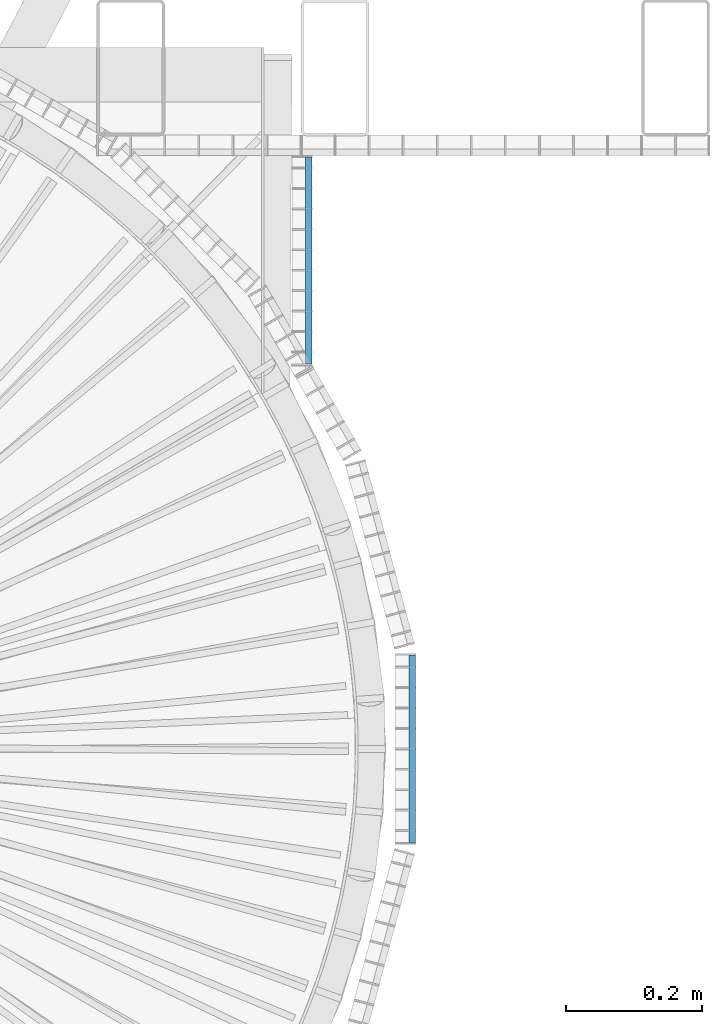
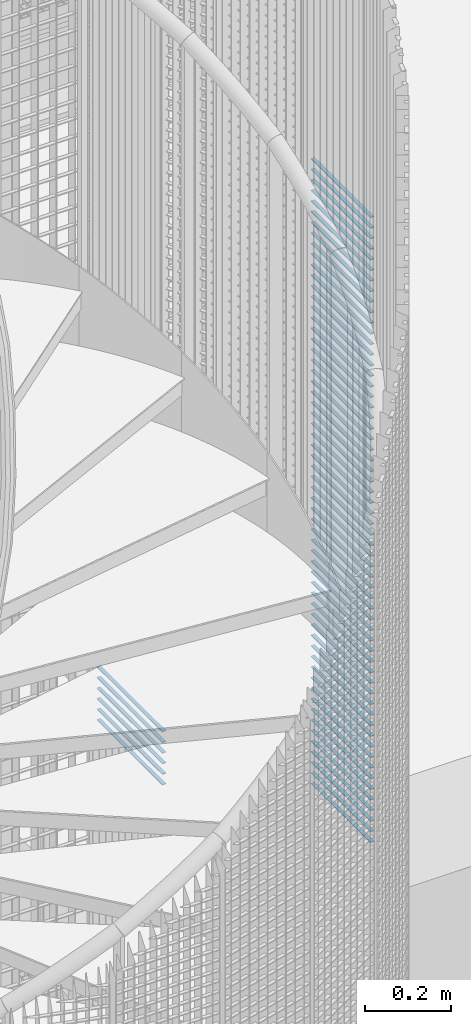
# One storey, part 284 of 1183: 66 beams, 2 elements without a shape of their own.
"""IFC2X3 building model written with IfcOpenShell, lengths in millimetres."""

import ifcopenshell
import ifcopenshell.guid

model = None  # the IFC model being written
_history = None  # IfcOwnerHistory: only IFC2X3 demands one
_inside = {}  # id of a spatial element -> (the spatial element, [elements in it])
_under = {}  # id of a project, library or spatial element -> (it, [spatial elements below it])
_declared = {}  # id of a project -> (the project, [libraries it declares])
_typed = {}  # id of a type object -> (the type object, [elements of that type])
_made_of = {}  # id of a material, layer set ... -> (it, [elements and type objects made of it])


def new_model(schema):
    """Start an empty IFC model of exactly this schema.

    Asked for "IFC4X3", IfcOpenShell would pick the latest addendum, in which some entities
    have other attributes; the version numbers below select the first issue.
    IFC2X3 requires an IfcOwnerHistory on every rooted entity: one is made here for all.
    """
    global model, _history
    if schema == "IFC4X3":
        model = ifcopenshell.file(schema_version=(4, 3, 0, 0))
    else:
        model = ifcopenshell.file(schema=schema)
    _inside.clear()
    _under.clear()
    _declared.clear()
    _typed.clear()
    _made_of.clear()
    _history = None
    if model.schema == "IFC2X3":
        org = make("IfcOrganization", Name="unknown")
        user = make(
            "IfcPersonAndOrganization",
            ThePerson=make("IfcPerson", FamilyName="unknown"),
            TheOrganization=org,
        )
        app = make(
            "IfcApplication",
            ApplicationDeveloper=org,
            Version="unknown",
            ApplicationFullName="unknown",
            ApplicationIdentifier="unknown",
        )
        _history = make(
            "IfcOwnerHistory",
            OwningUser=user,
            OwningApplication=app,
            ChangeAction="ADDED",
            CreationDate=0,
        )
    return model


def make(cls, **values):
    """One entity of the class cls with the attributes given. An attribute that is None is left unset."""
    return model.create_entity(
        cls, **{name: value for name, value in values.items() if value is not None}
    )


def rooted(cls, **values):
    """An entity with a GlobalId (a new one), such as an element, a storey or a relation."""
    return make(cls, GlobalId=ifcopenshell.guid.new(), OwnerHistory=_history, **values)


def si_unit(unit_type, name, prefix=None):
    """IfcSIUnit, for example si_unit("LENGTHUNIT", "METRE", prefix="MILLI")."""
    return make("IfcSIUnit", UnitType=unit_type, Prefix=prefix, Name=name)


def assignment(units):
    """IfcUnitAssignment: the units of a project."""
    return None if units is None else make("IfcUnitAssignment", Units=units)


def point(xyz):
    """IfcCartesianPoint."""
    return None if xyz is None else make("IfcCartesianPoint", Coordinates=xyz)


def direction(xyz):
    """IfcDirection."""
    return None if xyz is None else make("IfcDirection", DirectionRatios=xyz)


def frame(location, z_axis=None, x_axis=None):
    """IfcAxis2Placement3D, a coordinate frame: its origin and axes. An axis left out is left unset."""
    return make(
        "IfcAxis2Placement3D",
        Location=point(location),
        Axis=direction(z_axis),
        RefDirection=direction(x_axis),
    )


def frame_2d(location, x_axis=None):
    """IfcAxis2Placement2D, a coordinate frame in the plane: its origin and x axis."""
    return make(
        "IfcAxis2Placement2D", Location=point(location), RefDirection=direction(x_axis)
    )


def origin_with_axes():
    """The frame at (0, 0, 0) with the z axis (0, 0, 1) and the x axis (1, 0, 0) written out."""
    return frame((0.0, 0.0, 0.0), z_axis=(0.0, 0.0, 1.0), x_axis=(1.0, 0.0, 0.0))


def origin_2d_with_axis():
    """The frame at (0, 0) in the plane with the x axis (1, 0) written out."""
    return frame_2d((0.0, 0.0), x_axis=(1.0, 0.0))


def place(relative_to, where):
    """IfcLocalPlacement: puts the frame where relative to a parent placement (None: the world)."""
    return make(
        "IfcLocalPlacement", PlacementRelTo=relative_to, RelativePlacement=where
    )


def context(
    kind, dimensions, precision=None, world=None, true_north=None, identifier=None
):
    """IfcGeometricRepresentationContext, for example the 3D "Model" context."""
    return make(
        "IfcGeometricRepresentationContext",
        ContextIdentifier=identifier,
        ContextType=kind,
        CoordinateSpaceDimension=dimensions,
        Precision=precision,
        WorldCoordinateSystem=world,
        TrueNorth=true_north,
    )


def subcontext(parent, identifier, kind, view, scale=None):
    """IfcGeometricRepresentationSubContext, for example "Body" below "Model"."""
    return make(
        "IfcGeometricRepresentationSubContext",
        ContextIdentifier=identifier,
        ContextType=kind,
        ParentContext=parent,
        TargetScale=scale,
        TargetView=view,
    )


def project(units=None, contexts=None):
    """IfcProject with its units and contexts."""
    return rooted(
        "IfcProject",
        Name="project",
        RepresentationContexts=contexts,
        UnitsInContext=assignment(units),
    )


def spatial(cls, under=None, at=None, **own):
    """A site, building, storey or space (cls), placed at a placement, below another one or the project."""
    s = rooted(cls, ObjectPlacement=at, **own)
    if under is not None:
        _under.setdefault(under.id(), (under, []))[1].append(s)
    return s


def profile(cls, at=None, kind="AREA", **sizes):
    """A parametric profile (cls). Its sizes go by their IFC names, for example OverallWidth=200.0."""
    return make(cls, ProfileType=kind, Position=at, **sizes)


def rectangle(**sizes):
    """IfcRectangleProfileDef."""
    return profile("IfcRectangleProfileDef", **sizes)


def extrude(swept, where, along, depth):
    """IfcExtrudedAreaSolid: the profile swept, set in the frame where, extruded along a direction by depth."""
    return make(
        "IfcExtrudedAreaSolid",
        SweptArea=swept,
        Position=where,
        ExtrudedDirection=direction(along),
        Depth=depth,
    )


def shape(context_of_items, identifier, shape_type, items):
    """IfcShapeRepresentation: the items that make up one representation, for example the "Body"."""
    return make(
        "IfcShapeRepresentation",
        ContextOfItems=context_of_items,
        RepresentationIdentifier=identifier,
        RepresentationType=shape_type,
        Items=items,
    )


def material(Name=None, Category=None):
    """IfcMaterial."""
    return make("IfcMaterial", Name=Name, Category=Category)


def made_of(thing, what):
    """Note that an element or type object is made of a material, layer set ...; save() writes the relation."""
    if what is not None:
        _made_of.setdefault(what.id(), (what, []))[1].append(thing)
    return thing


def type_object(cls, material=None, **own):
    """A type object (cls), such as IfcWallType, which elements share."""
    return made_of(rooted(cls, **own), material)


def element(
    cls,
    number,
    at=None,
    inside=None,
    cuts=None,
    type_object=None,
    material=None,
    context=None,
    identifier="Body",
    shape_type=None,
    held_by="IfcProductDefinitionShape",
    body=None,
    shapes=None,
    **own,
):
    """One element of the class cls, such as IfcWall. Its Tag is "e" and its number.

    at: its placement. inside: the storey or other place that contains it. cuts: it is an
    opening in that element (IfcRelVoidsElement). A single representation is given by context,
    identifier, shape_type and body (its items); several are given by shapes. held_by: the class
    of the entity that holds the representations. save() writes the other relations.
    """
    e = rooted(cls, Tag="e%d" % number, ObjectPlacement=at, **own)
    if body is not None:
        shapes = [shape(context, identifier, shape_type, body)]
    if shapes is not None:
        e.Representation = make(held_by, Representations=shapes)
    if inside is not None:
        _inside.setdefault(inside.id(), (inside, []))[1].append(e)
    if cuts is not None:
        rooted(
            "IfcRelVoidsElement", RelatingBuildingElement=cuts, RelatedOpeningElement=e
        )
    if type_object is not None:
        _typed.setdefault(type_object.id(), (type_object, []))[1].append(e)
    return made_of(e, material)


def aggregate(whole, parts):
    """IfcRelAggregates: a whole, such as a stair, and the parts it consists of."""
    return rooted("IfcRelAggregates", RelatingObject=whole, RelatedObjects=parts)


def save(model, path):
    """Write the relations noted so far, then the file.

    IfcRelAggregates (storeys below a building ...), IfcRelContainedInSpatialStructure (elements
    in a storey), IfcRelDefinesByType, IfcRelAssociatesMaterial and IfcRelDeclares: one each for
    every whole, place, type object, material and project.
    """
    for whole, parts in _under.values():
        aggregate(whole, parts)
    for where, things in _inside.values():
        rooted(
            "IfcRelContainedInSpatialStructure",
            RelatedElements=things,
            RelatingStructure=where,
        )
    for kind, things in _typed.values():
        rooted("IfcRelDefinesByType", RelatedObjects=things, RelatingType=kind)
    for what, things in _made_of.values():
        rooted("IfcRelAssociatesMaterial", RelatedObjects=things, RelatingMaterial=what)
    for by, libraries in _declared.values():
        rooted("IfcRelDeclares", RelatingContext=by, RelatedDefinitions=libraries)
    model.write(path)


model = new_model("IFC2X3")

# Units and contexts
model_context = context("Model", 3, precision=1e-05, world=origin_with_axes())
body_context = subcontext(model_context, "Body", "Model", "MODEL_VIEW")
ifc_project = project(units=[si_unit("LENGTHUNIT", "METRE", prefix="MILLI"), si_unit("AREAUNIT", "SQUARE_METRE"), si_unit("VOLUMEUNIT", "CUBIC_METRE"), si_unit("MASSUNIT", "GRAM", prefix="KILO"), si_unit("TIMEUNIT", "SECOND"), si_unit("PLANEANGLEUNIT", "RADIAN"), si_unit("SOLIDANGLEUNIT", "STERADIAN"), si_unit("THERMODYNAMICTEMPERATUREUNIT", "DEGREE_CELSIUS"), si_unit("LUMINOUSINTENSITYUNIT", "LUMEN")], contexts=[model_context])

# Site, building, storey
site_placement = place(None, origin_with_axes())
site = spatial("IfcSite", under=ifc_project, at=site_placement, Name="Undefined", CompositionType="ELEMENT")
building_placement = place(site_placement, origin_with_axes())
building = spatial("IfcBuilding", under=site, at=building_placement, Name="Undefined", CompositionType="ELEMENT")
storey_placement = place(building_placement, origin_with_axes())
storey = spatial("IfcBuildingStorey", under=building, at=storey_placement, Name="Undefined", CompositionType="ELEMENT", Elevation=0.0)

# Assembly, beams
assembly_1_placement = place(storey_placement, origin_with_axes())
assembly_1 = element("IfcElementAssembly", 1, at=assembly_1_placement, inside=storey, Name="BORDURE", AssemblyPlace="NOTDEFINED", PredefinedType="NOTDEFINED")
ifc_material = material(Name="STEEL/S235JR")
beam_type = type_object("IfcBeamType", Name="PL2*10", PredefinedType="NOTDEFINED")
beam_1_placement = place(assembly_1_placement, frame((1113.47999999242, -137.996003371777, 13800.0), z_axis=(1.0, 0.0, 0.0), x_axis=(0.0, 1.0, 0.0)))
beam_1 = element("IfcBeam", 2, at=beam_1_placement, type_object=beam_type, material=ifc_material, Name="ENTRETOISE", context=body_context, shape_type="SweptSolid", body=[
    extrude(rectangle(XDim=2.0, YDim=10.0, at=origin_2d_with_axis()), frame((275.999999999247, 9.09494701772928e-13, 1.53210777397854e-14), z_axis=(-1.0, 0.0, 0.0), x_axis=(0.0, -1.0, 0.0)), (0.0, 0.0, 1.0), 276.0),
])
beam_2_placement = place(assembly_1_placement, frame((1113.47999999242, -137.996003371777, 13770.0), z_axis=(1.0, 0.0, 0.0), x_axis=(0.0, 1.0, 0.0)))
beam_2 = element("IfcBeam", 3, at=beam_2_placement, type_object=beam_type, material=ifc_material, Name="ENTRETOISE", context=body_context, shape_type="SweptSolid", body=[
    extrude(rectangle(XDim=2.0, YDim=10.0, at=origin_2d_with_axis()), frame((275.999999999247, 9.09494701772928e-13, 1.53210777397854e-14), z_axis=(-1.0, 0.0, 0.0), x_axis=(0.0, -1.0, 0.0)), (0.0, 0.0, 1.0), 276.0),
])
beam_3_placement = place(assembly_1_placement, frame((1113.47999999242, -137.996003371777, 13740.0), z_axis=(1.0, 0.0, 0.0), x_axis=(0.0, 1.0, 0.0)))
beam_3 = element("IfcBeam", 4, at=beam_3_placement, type_object=beam_type, material=ifc_material, Name="ENTRETOISE", context=body_context, shape_type="SweptSolid", body=[
    extrude(rectangle(XDim=2.0, YDim=10.0, at=origin_2d_with_axis()), frame((275.999999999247, 9.09494701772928e-13, 1.53210777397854e-14), z_axis=(-1.0, 0.0, 0.0), x_axis=(0.0, -1.0, 0.0)), (0.0, 0.0, 1.0), 276.0),
])
beam_4_placement = place(assembly_1_placement, frame((1113.47999999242, -137.996003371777, 13710.0), z_axis=(1.0, 0.0, 0.0), x_axis=(0.0, 1.0, 0.0)))
beam_4 = element("IfcBeam", 5, at=beam_4_placement, type_object=beam_type, material=ifc_material, Name="ENTRETOISE", context=body_context, shape_type="SweptSolid", body=[
    extrude(rectangle(XDim=2.0, YDim=10.0, at=origin_2d_with_axis()), frame((275.999999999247, 9.09494701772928e-13, 1.53210777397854e-14), z_axis=(-1.0, 0.0, 0.0), x_axis=(0.0, -1.0, 0.0)), (0.0, 0.0, 1.0), 276.0),
])
beam_5_placement = place(assembly_1_placement, frame((1113.47999999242, -137.996003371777, 13680.0), z_axis=(1.0, 0.0, 0.0), x_axis=(0.0, 1.0, 0.0)))
beam_5 = element("IfcBeam", 6, at=beam_5_placement, type_object=beam_type, material=ifc_material, Name="ENTRETOISE", context=body_context, shape_type="SweptSolid", body=[
    extrude(rectangle(XDim=2.0, YDim=10.0, at=origin_2d_with_axis()), frame((275.999999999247, 9.09494701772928e-13, 1.53210777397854e-14), z_axis=(-1.0, 0.0, 0.0), x_axis=(0.0, -1.0, 0.0)), (0.0, 0.0, 1.0), 276.0),
])
beam_6_placement = place(assembly_1_placement, frame((1113.47999999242, -137.996003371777, 13650.0), z_axis=(1.0, 0.0, 0.0), x_axis=(0.0, 1.0, 0.0)))
beam_6 = element("IfcBeam", 7, at=beam_6_placement, type_object=beam_type, material=ifc_material, Name="ENTRETOISE", context=body_context, shape_type="SweptSolid", body=[
    extrude(rectangle(XDim=2.0, YDim=10.0, at=origin_2d_with_axis()), frame((275.999999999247, 9.09494701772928e-13, 1.53210777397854e-14), z_axis=(-1.0, 0.0, 0.0), x_axis=(0.0, -1.0, 0.0)), (0.0, 0.0, 1.0), 276.0),
])
beam_7_placement = place(assembly_1_placement, frame((1113.47999999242, -137.996003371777, 13620.0), z_axis=(1.0, 0.0, 0.0), x_axis=(0.0, 1.0, 0.0)))
beam_7 = element("IfcBeam", 8, at=beam_7_placement, type_object=beam_type, material=ifc_material, Name="ENTRETOISE", context=body_context, shape_type="SweptSolid", body=[
    extrude(rectangle(XDim=2.0, YDim=10.0, at=origin_2d_with_axis()), frame((275.999999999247, 9.09494701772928e-13, 1.53210777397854e-14), z_axis=(-1.0, 0.0, 0.0), x_axis=(0.0, -1.0, 0.0)), (0.0, 0.0, 1.0), 276.0),
])
beam_8_placement = place(assembly_1_placement, frame((1113.47999999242, -137.996003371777, 13590.0), z_axis=(1.0, 0.0, 0.0), x_axis=(0.0, 1.0, 0.0)))
beam_8 = element("IfcBeam", 9, at=beam_8_placement, type_object=beam_type, material=ifc_material, Name="ENTRETOISE", context=body_context, shape_type="SweptSolid", body=[
    extrude(rectangle(XDim=2.0, YDim=10.0, at=origin_2d_with_axis()), frame((275.999999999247, 9.09494701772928e-13, 1.53210777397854e-14), z_axis=(-1.0, 0.0, 0.0), x_axis=(0.0, -1.0, 0.0)), (0.0, 0.0, 1.0), 276.0),
])
beam_9_placement = place(assembly_1_placement, frame((1113.47999999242, -137.996003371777, 13560.0), z_axis=(1.0, 0.0, 0.0), x_axis=(0.0, 1.0, 0.0)))
beam_9 = element("IfcBeam", 10, at=beam_9_placement, type_object=beam_type, material=ifc_material, Name="ENTRETOISE", context=body_context, shape_type="SweptSolid", body=[
    extrude(rectangle(XDim=2.0, YDim=10.0, at=origin_2d_with_axis()), frame((275.999999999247, 9.09494701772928e-13, 1.53210777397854e-14), z_axis=(-1.0, 0.0, 0.0), x_axis=(0.0, -1.0, 0.0)), (0.0, 0.0, 1.0), 276.0),
])
beam_10_placement = place(assembly_1_placement, frame((1113.47999999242, -137.996003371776, 13530.0), z_axis=(1.0, 0.0, 0.0), x_axis=(0.0, 1.0, 0.0)))
beam_10 = element("IfcBeam", 11, at=beam_10_placement, type_object=beam_type, material=ifc_material, Name="ENTRETOISE", context=body_context, shape_type="SweptSolid", body=[
    extrude(rectangle(XDim=2.0, YDim=10.0, at=origin_2d_with_axis()), frame((275.999999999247, 9.09494701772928e-13, 1.53210777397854e-14), z_axis=(-1.0, 0.0, 0.0), x_axis=(0.0, -1.0, 0.0)), (0.0, 0.0, 1.0), 276.0),
])
beam_11_placement = place(assembly_1_placement, frame((1113.47999999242, -137.996003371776, 13500.0), z_axis=(1.0, 0.0, 0.0), x_axis=(0.0, 1.0, 0.0)))
beam_11 = element("IfcBeam", 12, at=beam_11_placement, type_object=beam_type, material=ifc_material, Name="ENTRETOISE", context=body_context, shape_type="SweptSolid", body=[
    extrude(rectangle(XDim=2.0, YDim=10.0, at=origin_2d_with_axis()), frame((275.999999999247, 9.09494701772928e-13, 1.53210777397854e-14), z_axis=(-1.0, 0.0, 0.0), x_axis=(0.0, -1.0, 0.0)), (0.0, 0.0, 1.0), 276.0),
])
beam_12_placement = place(assembly_1_placement, frame((1113.47999999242, -137.996003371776, 13470.0), z_axis=(1.0, 0.0, 0.0), x_axis=(0.0, 1.0, 0.0)))
beam_12 = element("IfcBeam", 13, at=beam_12_placement, type_object=beam_type, material=ifc_material, Name="ENTRETOISE", context=body_context, shape_type="SweptSolid", body=[
    extrude(rectangle(XDim=2.0, YDim=10.0, at=origin_2d_with_axis()), frame((275.999999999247, 9.09494701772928e-13, 1.53210777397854e-14), z_axis=(-1.0, 0.0, 0.0), x_axis=(0.0, -1.0, 0.0)), (0.0, 0.0, 1.0), 276.0),
])
beam_13_placement = place(assembly_1_placement, frame((1113.47999999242, -137.996003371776, 13440.0), z_axis=(1.0, 0.0, 0.0), x_axis=(0.0, 1.0, 0.0)))
beam_13 = element("IfcBeam", 14, at=beam_13_placement, type_object=beam_type, material=ifc_material, Name="ENTRETOISE", context=body_context, shape_type="SweptSolid", body=[
    extrude(rectangle(XDim=2.0, YDim=10.0, at=origin_2d_with_axis()), frame((275.999999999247, 9.09494701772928e-13, 1.53210777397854e-14), z_axis=(-1.0, 0.0, 0.0), x_axis=(0.0, -1.0, 0.0)), (0.0, 0.0, 1.0), 276.0),
])
beam_14_placement = place(assembly_1_placement, frame((1113.47999999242, -137.996003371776, 13410.0), z_axis=(1.0, 0.0, 0.0), x_axis=(0.0, 1.0, 0.0)))
beam_14 = element("IfcBeam", 15, at=beam_14_placement, type_object=beam_type, material=ifc_material, Name="ENTRETOISE", context=body_context, shape_type="SweptSolid", body=[
    extrude(rectangle(XDim=2.0, YDim=10.0, at=origin_2d_with_axis()), frame((275.999999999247, 9.09494701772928e-13, 1.53210777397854e-14), z_axis=(-1.0, 0.0, 0.0), x_axis=(0.0, -1.0, 0.0)), (0.0, 0.0, 1.0), 276.0),
])
beam_15_placement = place(assembly_1_placement, frame((1113.47999999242, -137.996003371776, 13380.0), z_axis=(1.0, 0.0, 0.0), x_axis=(0.0, 1.0, 0.0)))
beam_15 = element("IfcBeam", 16, at=beam_15_placement, type_object=beam_type, material=ifc_material, Name="ENTRETOISE", context=body_context, shape_type="SweptSolid", body=[
    extrude(rectangle(XDim=2.0, YDim=10.0, at=origin_2d_with_axis()), frame((275.999999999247, 9.09494701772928e-13, 1.53210777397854e-14), z_axis=(-1.0, 0.0, 0.0), x_axis=(0.0, -1.0, 0.0)), (0.0, 0.0, 1.0), 276.0),
])
beam_16_placement = place(assembly_1_placement, frame((1113.47999999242, -137.996003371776, 13350.0), z_axis=(1.0, 0.0, 0.0), x_axis=(0.0, 1.0, 0.0)))
beam_16 = element("IfcBeam", 17, at=beam_16_placement, type_object=beam_type, material=ifc_material, Name="ENTRETOISE", context=body_context, shape_type="SweptSolid", body=[
    extrude(rectangle(XDim=2.0, YDim=10.0, at=origin_2d_with_axis()), frame((275.999999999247, 9.09494701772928e-13, 1.53210777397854e-14), z_axis=(-1.0, 0.0, 0.0), x_axis=(0.0, -1.0, 0.0)), (0.0, 0.0, 1.0), 276.0),
])
beam_17_placement = place(assembly_1_placement, frame((1113.47999999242, -137.996003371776, 13320.0), z_axis=(1.0, 0.0, 0.0), x_axis=(0.0, 1.0, 0.0)))
beam_17 = element("IfcBeam", 18, at=beam_17_placement, type_object=beam_type, material=ifc_material, Name="ENTRETOISE", context=body_context, shape_type="SweptSolid", body=[
    extrude(rectangle(XDim=2.0, YDim=10.0, at=origin_2d_with_axis()), frame((275.999999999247, 9.09494701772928e-13, 1.53210777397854e-14), z_axis=(-1.0, 0.0, 0.0), x_axis=(0.0, -1.0, 0.0)), (0.0, 0.0, 1.0), 276.0),
])
beam_18_placement = place(assembly_1_placement, frame((1113.47999999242, -137.996003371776, 13290.0), z_axis=(1.0, 0.0, 0.0), x_axis=(0.0, 1.0, 0.0)))
beam_18 = element("IfcBeam", 19, at=beam_18_placement, type_object=beam_type, material=ifc_material, Name="ENTRETOISE", context=body_context, shape_type="SweptSolid", body=[
    extrude(rectangle(XDim=2.0, YDim=10.0, at=origin_2d_with_axis()), frame((275.999999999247, 9.09494701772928e-13, 1.53210777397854e-14), z_axis=(-1.0, 0.0, 0.0), x_axis=(0.0, -1.0, 0.0)), (0.0, 0.0, 1.0), 276.0),
])
beam_19_placement = place(assembly_1_placement, frame((1113.47999999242, -137.996003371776, 13260.0), z_axis=(1.0, 0.0, 0.0), x_axis=(0.0, 1.0, 0.0)))
beam_19 = element("IfcBeam", 20, at=beam_19_placement, type_object=beam_type, material=ifc_material, Name="ENTRETOISE", context=body_context, shape_type="SweptSolid", body=[
    extrude(rectangle(XDim=2.0, YDim=10.0, at=origin_2d_with_axis()), frame((275.999999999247, 9.09494701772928e-13, 1.53210777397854e-14), z_axis=(-1.0, 0.0, 0.0), x_axis=(0.0, -1.0, 0.0)), (0.0, 0.0, 1.0), 276.0),
])
beam_20_placement = place(assembly_1_placement, frame((1113.47999999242, -137.996003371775, 13230.0), z_axis=(1.0, 0.0, 0.0), x_axis=(0.0, 1.0, 0.0)))
beam_20 = element("IfcBeam", 21, at=beam_20_placement, type_object=beam_type, material=ifc_material, Name="ENTRETOISE", context=body_context, shape_type="SweptSolid", body=[
    extrude(rectangle(XDim=2.0, YDim=10.0, at=origin_2d_with_axis()), frame((275.999999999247, 9.09494701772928e-13, 1.53210777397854e-14), z_axis=(-1.0, 0.0, 0.0), x_axis=(0.0, -1.0, 0.0)), (0.0, 0.0, 1.0), 276.0),
])
beam_21_placement = place(assembly_1_placement, frame((1113.47999999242, -137.996003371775, 13200.0), z_axis=(1.0, 0.0, 0.0), x_axis=(0.0, 1.0, 0.0)))
beam_21 = element("IfcBeam", 22, at=beam_21_placement, type_object=beam_type, material=ifc_material, Name="ENTRETOISE", context=body_context, shape_type="SweptSolid", body=[
    extrude(rectangle(XDim=2.0, YDim=10.0, at=origin_2d_with_axis()), frame((275.999999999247, 9.09494701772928e-13, 1.53210777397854e-14), z_axis=(-1.0, 0.0, 0.0), x_axis=(0.0, -1.0, 0.0)), (0.0, 0.0, 1.0), 276.0),
])
beam_22_placement = place(assembly_1_placement, frame((1113.47999999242, -137.996003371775, 13170.0), z_axis=(1.0, 0.0, 0.0), x_axis=(0.0, 1.0, 0.0)))
beam_22 = element("IfcBeam", 23, at=beam_22_placement, type_object=beam_type, material=ifc_material, Name="ENTRETOISE", context=body_context, shape_type="SweptSolid", body=[
    extrude(rectangle(XDim=2.0, YDim=10.0, at=origin_2d_with_axis()), frame((275.999999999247, 9.09494701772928e-13, 1.53210777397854e-14), z_axis=(-1.0, 0.0, 0.0), x_axis=(0.0, -1.0, 0.0)), (0.0, 0.0, 1.0), 276.0),
])
beam_23_placement = place(assembly_1_placement, frame((1113.47999999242, -137.996003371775, 13140.0), z_axis=(1.0, 0.0, 0.0), x_axis=(0.0, 1.0, 0.0)))
beam_23 = element("IfcBeam", 24, at=beam_23_placement, type_object=beam_type, material=ifc_material, Name="ENTRETOISE", context=body_context, shape_type="SweptSolid", body=[
    extrude(rectangle(XDim=2.0, YDim=10.0, at=origin_2d_with_axis()), frame((275.999999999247, 9.09494701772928e-13, 1.53210777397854e-14), z_axis=(-1.0, 0.0, 0.0), x_axis=(0.0, -1.0, 0.0)), (0.0, 0.0, 1.0), 276.0),
])
beam_24_placement = place(assembly_1_placement, frame((1113.47999999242, -137.996003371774, 12720.0), z_axis=(1.0, 0.0, 0.0), x_axis=(0.0, 1.0, 0.0)))
beam_24 = element("IfcBeam", 25, at=beam_24_placement, type_object=beam_type, material=ifc_material, Name="ENTRETOISE", context=body_context, shape_type="SweptSolid", body=[
    extrude(rectangle(XDim=2.0, YDim=10.0, at=origin_2d_with_axis()), frame((275.999999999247, 9.09494701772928e-13, 1.53210777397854e-14), z_axis=(-1.0, 0.0, 0.0), x_axis=(0.0, -1.0, 0.0)), (0.0, 0.0, 1.0), 276.0),
])
beam_25_placement = place(assembly_1_placement, frame((1113.47999999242, -137.996003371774, 12690.0), z_axis=(1.0, 0.0, 0.0), x_axis=(0.0, 1.0, 0.0)))
beam_25 = element("IfcBeam", 26, at=beam_25_placement, type_object=beam_type, material=ifc_material, Name="ENTRETOISE", context=body_context, shape_type="SweptSolid", body=[
    extrude(rectangle(XDim=2.0, YDim=10.0, at=origin_2d_with_axis()), frame((275.999999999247, 9.09494701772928e-13, 1.53210777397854e-14), z_axis=(-1.0, 0.0, 0.0), x_axis=(0.0, -1.0, 0.0)), (0.0, 0.0, 1.0), 276.0),
])
beam_26_placement = place(assembly_1_placement, frame((1113.47999999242, -137.996003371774, 12750.0), z_axis=(1.0, 0.0, 0.0), x_axis=(0.0, 1.0, 0.0)))
beam_26 = element("IfcBeam", 27, at=beam_26_placement, type_object=beam_type, material=ifc_material, Name="ENTRETOISE", context=body_context, shape_type="SweptSolid", body=[
    extrude(rectangle(XDim=2.0, YDim=10.0, at=origin_2d_with_axis()), frame((275.999999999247, 9.09494701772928e-13, 1.53210777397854e-14), z_axis=(-1.0, 0.0, 0.0), x_axis=(0.0, -1.0, 0.0)), (0.0, 0.0, 1.0), 276.0),
])
beam_27_placement = place(assembly_1_placement, frame((1113.47999999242, -137.996003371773, 12660.0), z_axis=(1.0, 0.0, 0.0), x_axis=(0.0, 1.0, 0.0)))
beam_27 = element("IfcBeam", 28, at=beam_27_placement, type_object=beam_type, material=ifc_material, Name="ENTRETOISE", context=body_context, shape_type="SweptSolid", body=[
    extrude(rectangle(XDim=2.0, YDim=10.0, at=origin_2d_with_axis()), frame((275.999999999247, 9.09494701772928e-13, 1.53210777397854e-14), z_axis=(-1.0, 0.0, 0.0), x_axis=(0.0, -1.0, 0.0)), (0.0, 0.0, 1.0), 276.0),
])
beam_28_placement = place(assembly_1_placement, frame((1113.47999999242, -137.996003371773, 12630.0), z_axis=(1.0, 0.0, 0.0), x_axis=(0.0, 1.0, 0.0)))
beam_28 = element("IfcBeam", 29, at=beam_28_placement, type_object=beam_type, material=ifc_material, Name="ENTRETOISE", context=body_context, shape_type="SweptSolid", body=[
    extrude(rectangle(XDim=2.0, YDim=10.0, at=origin_2d_with_axis()), frame((275.999999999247, 9.09494701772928e-13, 1.53210777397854e-14), z_axis=(-1.0, 0.0, 0.0), x_axis=(0.0, -1.0, 0.0)), (0.0, 0.0, 1.0), 276.0),
])
beam_29_placement = place(assembly_1_placement, frame((1113.47999999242, -137.996003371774, 12780.0), z_axis=(1.0, 0.0, 0.0), x_axis=(0.0, 1.0, 0.0)))
beam_29 = element("IfcBeam", 30, at=beam_29_placement, type_object=beam_type, material=ifc_material, Name="ENTRETOISE", context=body_context, shape_type="SweptSolid", body=[
    extrude(rectangle(XDim=2.0, YDim=10.0, at=origin_2d_with_axis()), frame((275.999999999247, 9.09494701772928e-13, 1.53210777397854e-14), z_axis=(-1.0, 0.0, 0.0), x_axis=(0.0, -1.0, 0.0)), (0.0, 0.0, 1.0), 276.0),
])
beam_30_placement = place(assembly_1_placement, frame((1113.47999999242, -137.996003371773, 12600.0), z_axis=(1.0, 0.0, 0.0), x_axis=(0.0, 1.0, 0.0)))
beam_30 = element("IfcBeam", 31, at=beam_30_placement, type_object=beam_type, material=ifc_material, Name="ENTRETOISE", context=body_context, shape_type="SweptSolid", body=[
    extrude(rectangle(XDim=2.0, YDim=10.0, at=origin_2d_with_axis()), frame((275.999999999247, 9.09494701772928e-13, 1.53210777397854e-14), z_axis=(-1.0, 0.0, 0.0), x_axis=(0.0, -1.0, 0.0)), (0.0, 0.0, 1.0), 276.0),
])
beam_31_placement = place(assembly_1_placement, frame((1113.47999999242, -137.996003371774, 12810.0), z_axis=(1.0, 0.0, 0.0), x_axis=(0.0, 1.0, 0.0)))
beam_31 = element("IfcBeam", 32, at=beam_31_placement, type_object=beam_type, material=ifc_material, Name="ENTRETOISE", context=body_context, shape_type="SweptSolid", body=[
    extrude(rectangle(XDim=2.0, YDim=10.0, at=origin_2d_with_axis()), frame((275.999999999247, 9.09494701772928e-13, 1.53210777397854e-14), z_axis=(-1.0, 0.0, 0.0), x_axis=(0.0, -1.0, 0.0)), (0.0, 0.0, 1.0), 276.0),
])
beam_32_placement = place(assembly_1_placement, frame((1113.47999999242, -137.996003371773, 12570.0), z_axis=(1.0, 0.0, 0.0), x_axis=(0.0, 1.0, 0.0)))
beam_32 = element("IfcBeam", 33, at=beam_32_placement, type_object=beam_type, material=ifc_material, Name="ENTRETOISE", context=body_context, shape_type="SweptSolid", body=[
    extrude(rectangle(XDim=2.0, YDim=10.0, at=origin_2d_with_axis()), frame((275.999999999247, 9.09494701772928e-13, 1.53210777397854e-14), z_axis=(-1.0, 0.0, 0.0), x_axis=(0.0, -1.0, 0.0)), (0.0, 0.0, 1.0), 276.0),
])
beam_33_placement = place(assembly_1_placement, frame((1113.47999999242, -137.996003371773, 12540.0), z_axis=(1.0, 0.0, 0.0), x_axis=(0.0, 1.0, 0.0)))
beam_33 = element("IfcBeam", 34, at=beam_33_placement, type_object=beam_type, material=ifc_material, Name="ENTRETOISE", context=body_context, shape_type="SweptSolid", body=[
    extrude(rectangle(XDim=2.0, YDim=10.0, at=origin_2d_with_axis()), frame((275.999999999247, 9.09494701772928e-13, 1.53210777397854e-14), z_axis=(-1.0, 0.0, 0.0), x_axis=(0.0, -1.0, 0.0)), (0.0, 0.0, 1.0), 276.0),
])
beam_34_placement = place(assembly_1_placement, frame((1113.47999999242, -137.996003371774, 12840.0), z_axis=(1.0, 0.0, 0.0), x_axis=(0.0, 1.0, 0.0)))
beam_34 = element("IfcBeam", 35, at=beam_34_placement, type_object=beam_type, material=ifc_material, Name="ENTRETOISE", context=body_context, shape_type="SweptSolid", body=[
    extrude(rectangle(XDim=2.0, YDim=10.0, at=origin_2d_with_axis()), frame((275.999999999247, 9.09494701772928e-13, 1.53210777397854e-14), z_axis=(-1.0, 0.0, 0.0), x_axis=(0.0, -1.0, 0.0)), (0.0, 0.0, 1.0), 276.0),
])
beam_35_placement = place(assembly_1_placement, frame((1113.47999999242, -137.996003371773, 12510.0), z_axis=(1.0, 0.0, 0.0), x_axis=(0.0, 1.0, 0.0)))
beam_35 = element("IfcBeam", 36, at=beam_35_placement, type_object=beam_type, material=ifc_material, Name="ENTRETOISE", context=body_context, shape_type="SweptSolid", body=[
    extrude(rectangle(XDim=2.0, YDim=10.0, at=origin_2d_with_axis()), frame((275.999999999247, 9.09494701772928e-13, 1.53210777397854e-14), z_axis=(-1.0, 0.0, 0.0), x_axis=(0.0, -1.0, 0.0)), (0.0, 0.0, 1.0), 276.0),
])
beam_36_placement = place(assembly_1_placement, frame((1113.47999999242, -137.996003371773, 12480.0), z_axis=(1.0, 0.0, 0.0), x_axis=(0.0, 1.0, 0.0)))
beam_36 = element("IfcBeam", 37, at=beam_36_placement, type_object=beam_type, material=ifc_material, Name="ENTRETOISE", context=body_context, shape_type="SweptSolid", body=[
    extrude(rectangle(XDim=2.0, YDim=10.0, at=origin_2d_with_axis()), frame((275.999999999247, 9.09494701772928e-13, 1.53210777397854e-14), z_axis=(-1.0, 0.0, 0.0), x_axis=(0.0, -1.0, 0.0)), (0.0, 0.0, 1.0), 276.0),
])
beam_37_placement = place(assembly_1_placement, frame((1113.47999999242, -137.996003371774, 12870.0), z_axis=(1.0, 0.0, 0.0), x_axis=(0.0, 1.0, 0.0)))
beam_37 = element("IfcBeam", 38, at=beam_37_placement, type_object=beam_type, material=ifc_material, Name="ENTRETOISE", context=body_context, shape_type="SweptSolid", body=[
    extrude(rectangle(XDim=2.0, YDim=10.0, at=origin_2d_with_axis()), frame((275.999999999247, 9.09494701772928e-13, 1.53210777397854e-14), z_axis=(-1.0, 0.0, 0.0), x_axis=(0.0, -1.0, 0.0)), (0.0, 0.0, 1.0), 276.0),
])
beam_38_placement = place(assembly_1_placement, frame((1113.47999999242, -137.996003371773, 12450.0), z_axis=(1.0, 0.0, 0.0), x_axis=(0.0, 1.0, 0.0)))
beam_38 = element("IfcBeam", 39, at=beam_38_placement, type_object=beam_type, material=ifc_material, Name="ENTRETOISE", context=body_context, shape_type="SweptSolid", body=[
    extrude(rectangle(XDim=2.0, YDim=10.0, at=origin_2d_with_axis()), frame((275.999999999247, 9.09494701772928e-13, 1.53210777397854e-14), z_axis=(-1.0, 0.0, 0.0), x_axis=(0.0, -1.0, 0.0)), (0.0, 0.0, 1.0), 276.0),
])
beam_39_placement = place(assembly_1_placement, frame((1113.47999999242, -137.996003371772, 12420.0), z_axis=(1.0, 0.0, 0.0), x_axis=(0.0, 1.0, 0.0)))
beam_39 = element("IfcBeam", 40, at=beam_39_placement, type_object=beam_type, material=ifc_material, Name="ENTRETOISE", context=body_context, shape_type="SweptSolid", body=[
    extrude(rectangle(XDim=2.0, YDim=10.0, at=origin_2d_with_axis()), frame((275.999999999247, 9.09494701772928e-13, 1.53210777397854e-14), z_axis=(-1.0, 0.0, 0.0), x_axis=(0.0, -1.0, 0.0)), (0.0, 0.0, 1.0), 276.0),
])
beam_40_placement = place(assembly_1_placement, frame((1113.47999999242, -137.996003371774, 12900.0), z_axis=(1.0, 0.0, 0.0), x_axis=(0.0, 1.0, 0.0)))
beam_40 = element("IfcBeam", 41, at=beam_40_placement, type_object=beam_type, material=ifc_material, Name="ENTRETOISE", context=body_context, shape_type="SweptSolid", body=[
    extrude(rectangle(XDim=2.0, YDim=10.0, at=origin_2d_with_axis()), frame((275.999999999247, 9.09494701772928e-13, 1.53210777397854e-14), z_axis=(-1.0, 0.0, 0.0), x_axis=(0.0, -1.0, 0.0)), (0.0, 0.0, 1.0), 276.0),
])
beam_41_placement = place(assembly_1_placement, frame((1113.47999999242, -137.996003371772, 12390.0), z_axis=(1.0, 0.0, 0.0), x_axis=(0.0, 1.0, 0.0)))
beam_41 = element("IfcBeam", 42, at=beam_41_placement, type_object=beam_type, material=ifc_material, Name="ENTRETOISE", context=body_context, shape_type="SweptSolid", body=[
    extrude(rectangle(XDim=2.0, YDim=10.0, at=origin_2d_with_axis()), frame((275.999999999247, 9.09494701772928e-13, 1.53210777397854e-14), z_axis=(-1.0, 0.0, 0.0), x_axis=(0.0, -1.0, 0.0)), (0.0, 0.0, 1.0), 276.0),
])
beam_42_placement = place(assembly_1_placement, frame((1113.47999999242, -137.996003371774, 12930.0), z_axis=(1.0, 0.0, 0.0), x_axis=(0.0, 1.0, 0.0)))
beam_42 = element("IfcBeam", 43, at=beam_42_placement, type_object=beam_type, material=ifc_material, Name="ENTRETOISE", context=body_context, shape_type="SweptSolid", body=[
    extrude(rectangle(XDim=2.0, YDim=10.0, at=origin_2d_with_axis()), frame((275.999999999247, 9.09494701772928e-13, 1.53210777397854e-14), z_axis=(-1.0, 0.0, 0.0), x_axis=(0.0, -1.0, 0.0)), (0.0, 0.0, 1.0), 276.0),
])
beam_43_placement = place(assembly_1_placement, frame((1113.47999999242, -137.996003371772, 12360.0), z_axis=(1.0, 0.0, 0.0), x_axis=(0.0, 1.0, 0.0)))
beam_43 = element("IfcBeam", 44, at=beam_43_placement, type_object=beam_type, material=ifc_material, Name="ENTRETOISE", context=body_context, shape_type="SweptSolid", body=[
    extrude(rectangle(XDim=2.0, YDim=10.0, at=origin_2d_with_axis()), frame((275.999999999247, 9.09494701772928e-13, 1.53210777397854e-14), z_axis=(-1.0, 0.0, 0.0), x_axis=(0.0, -1.0, 0.0)), (0.0, 0.0, 1.0), 276.0),
])
beam_44_placement = place(assembly_1_placement, frame((1113.47999999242, -137.996003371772, 12330.0), z_axis=(1.0, 0.0, 0.0), x_axis=(0.0, 1.0, 0.0)))
beam_44 = element("IfcBeam", 45, at=beam_44_placement, type_object=beam_type, material=ifc_material, Name="ENTRETOISE", context=body_context, shape_type="SweptSolid", body=[
    extrude(rectangle(XDim=2.0, YDim=10.0, at=origin_2d_with_axis()), frame((275.999999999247, 9.09494701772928e-13, 1.53210777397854e-14), z_axis=(-1.0, 0.0, 0.0), x_axis=(0.0, -1.0, 0.0)), (0.0, 0.0, 1.0), 276.0),
])
beam_45_placement = place(assembly_1_placement, frame((1113.47999999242, -137.996003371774, 12960.0), z_axis=(1.0, 0.0, 0.0), x_axis=(0.0, 1.0, 0.0)))
beam_45 = element("IfcBeam", 46, at=beam_45_placement, type_object=beam_type, material=ifc_material, Name="ENTRETOISE", context=body_context, shape_type="SweptSolid", body=[
    extrude(rectangle(XDim=2.0, YDim=10.0, at=origin_2d_with_axis()), frame((275.999999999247, 9.09494701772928e-13, 1.53210777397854e-14), z_axis=(-1.0, 0.0, 0.0), x_axis=(0.0, -1.0, 0.0)), (0.0, 0.0, 1.0), 276.0),
])
beam_46_placement = place(assembly_1_placement, frame((1113.47999999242, -137.996003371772, 12300.0), z_axis=(1.0, 0.0, 0.0), x_axis=(0.0, 1.0, 0.0)))
beam_46 = element("IfcBeam", 47, at=beam_46_placement, type_object=beam_type, material=ifc_material, Name="ENTRETOISE", context=body_context, shape_type="SweptSolid", body=[
    extrude(rectangle(XDim=2.0, YDim=10.0, at=origin_2d_with_axis()), frame((275.999999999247, 9.09494701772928e-13, 1.53210777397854e-14), z_axis=(-1.0, 0.0, 0.0), x_axis=(0.0, -1.0, 0.0)), (0.0, 0.0, 1.0), 276.0),
])
beam_47_placement = place(assembly_1_placement, frame((1113.47999999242, -137.996003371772, 12270.0), z_axis=(1.0, 0.0, 0.0), x_axis=(0.0, 1.0, 0.0)))
beam_47 = element("IfcBeam", 48, at=beam_47_placement, type_object=beam_type, material=ifc_material, Name="ENTRETOISE", context=body_context, shape_type="SweptSolid", body=[
    extrude(rectangle(XDim=2.0, YDim=10.0, at=origin_2d_with_axis()), frame((275.999999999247, 9.09494701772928e-13, 1.53210777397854e-14), z_axis=(-1.0, 0.0, 0.0), x_axis=(0.0, -1.0, 0.0)), (0.0, 0.0, 1.0), 276.0),
])
beam_48_placement = place(assembly_1_placement, frame((1113.47999999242, -137.996003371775, 12990.0), z_axis=(1.0, 0.0, 0.0), x_axis=(0.0, 1.0, 0.0)))
beam_48 = element("IfcBeam", 49, at=beam_48_placement, type_object=beam_type, material=ifc_material, Name="ENTRETOISE", context=body_context, shape_type="SweptSolid", body=[
    extrude(rectangle(XDim=2.0, YDim=10.0, at=origin_2d_with_axis()), frame((275.999999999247, 9.09494701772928e-13, 1.53210777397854e-14), z_axis=(-1.0, 0.0, 0.0), x_axis=(0.0, -1.0, 0.0)), (0.0, 0.0, 1.0), 276.0),
])
beam_49_placement = place(assembly_1_placement, frame((1113.47999999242, -137.996003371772, 12240.0), z_axis=(1.0, 0.0, 0.0), x_axis=(0.0, 1.0, 0.0)))
beam_49 = element("IfcBeam", 50, at=beam_49_placement, type_object=beam_type, material=ifc_material, Name="ENTRETOISE", context=body_context, shape_type="SweptSolid", body=[
    extrude(rectangle(XDim=2.0, YDim=10.0, at=origin_2d_with_axis()), frame((275.999999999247, 9.09494701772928e-13, 1.53210777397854e-14), z_axis=(-1.0, 0.0, 0.0), x_axis=(0.0, -1.0, 0.0)), (0.0, 0.0, 1.0), 276.0),
])
beam_50_placement = place(assembly_1_placement, frame((1113.47999999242, -137.996003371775, 13020.0), z_axis=(1.0, 0.0, 0.0), x_axis=(0.0, 1.0, 0.0)))
beam_50 = element("IfcBeam", 51, at=beam_50_placement, type_object=beam_type, material=ifc_material, Name="ENTRETOISE", context=body_context, shape_type="SweptSolid", body=[
    extrude(rectangle(XDim=2.0, YDim=10.0, at=origin_2d_with_axis()), frame((275.999999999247, 9.09494701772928e-13, 1.53210777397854e-14), z_axis=(-1.0, 0.0, 0.0), x_axis=(0.0, -1.0, 0.0)), (0.0, 0.0, 1.0), 276.0),
])
beam_51_placement = place(assembly_1_placement, frame((1113.47999999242, -137.996003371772, 12210.0), z_axis=(1.0, 0.0, 0.0), x_axis=(0.0, 1.0, 0.0)))
beam_51 = element("IfcBeam", 52, at=beam_51_placement, type_object=beam_type, material=ifc_material, Name="ENTRETOISE", context=body_context, shape_type="SweptSolid", body=[
    extrude(rectangle(XDim=2.0, YDim=10.0, at=origin_2d_with_axis()), frame((275.999999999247, 9.09494701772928e-13, 1.53210777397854e-14), z_axis=(-1.0, 0.0, 0.0), x_axis=(0.0, -1.0, 0.0)), (0.0, 0.0, 1.0), 276.0),
])
beam_52_placement = place(assembly_1_placement, frame((1113.47999999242, -137.996003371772, 12180.0), z_axis=(1.0, 0.0, 0.0), x_axis=(0.0, 1.0, 0.0)))
beam_52 = element("IfcBeam", 53, at=beam_52_placement, type_object=beam_type, material=ifc_material, Name="ENTRETOISE", context=body_context, shape_type="SweptSolid", body=[
    extrude(rectangle(XDim=2.0, YDim=10.0, at=origin_2d_with_axis()), frame((275.999999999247, 9.09494701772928e-13, 1.53210777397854e-14), z_axis=(-1.0, 0.0, 0.0), x_axis=(0.0, -1.0, 0.0)), (0.0, 0.0, 1.0), 276.0),
])
beam_53_placement = place(assembly_1_placement, frame((1113.47999999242, -137.996003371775, 13050.0), z_axis=(1.0, 0.0, 0.0), x_axis=(0.0, 1.0, 0.0)))
beam_53 = element("IfcBeam", 54, at=beam_53_placement, type_object=beam_type, material=ifc_material, Name="ENTRETOISE", context=body_context, shape_type="SweptSolid", body=[
    extrude(rectangle(XDim=2.0, YDim=10.0, at=origin_2d_with_axis()), frame((275.999999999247, 9.09494701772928e-13, 1.53210777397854e-14), z_axis=(-1.0, 0.0, 0.0), x_axis=(0.0, -1.0, 0.0)), (0.0, 0.0, 1.0), 276.0),
])
beam_54_placement = place(assembly_1_placement, frame((1113.47999999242, -137.996003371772, 12150.0), z_axis=(1.0, 0.0, 0.0), x_axis=(0.0, 1.0, 0.0)))
beam_54 = element("IfcBeam", 55, at=beam_54_placement, type_object=beam_type, material=ifc_material, Name="ENTRETOISE", context=body_context, shape_type="SweptSolid", body=[
    extrude(rectangle(XDim=2.0, YDim=10.0, at=origin_2d_with_axis()), frame((275.999999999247, 9.09494701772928e-13, 1.53210777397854e-14), z_axis=(-1.0, 0.0, 0.0), x_axis=(0.0, -1.0, 0.0)), (0.0, 0.0, 1.0), 276.0),
])
beam_55_placement = place(assembly_1_placement, frame((1113.47999999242, -137.996003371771, 12120.0), z_axis=(1.0, 0.0, 0.0), x_axis=(0.0, 1.0, 0.0)))
beam_55 = element("IfcBeam", 56, at=beam_55_placement, type_object=beam_type, material=ifc_material, Name="ENTRETOISE", context=body_context, shape_type="SweptSolid", body=[
    extrude(rectangle(XDim=2.0, YDim=10.0, at=origin_2d_with_axis()), frame((275.999999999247, 9.09494701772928e-13, 1.53210777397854e-14), z_axis=(-1.0, 0.0, 0.0), x_axis=(0.0, -1.0, 0.0)), (0.0, 0.0, 1.0), 276.0),
])
beam_56_placement = place(assembly_1_placement, frame((1113.47999999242, -137.996003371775, 13080.0), z_axis=(1.0, 0.0, 0.0), x_axis=(0.0, 1.0, 0.0)))
beam_56 = element("IfcBeam", 57, at=beam_56_placement, type_object=beam_type, material=ifc_material, Name="ENTRETOISE", context=body_context, shape_type="SweptSolid", body=[
    extrude(rectangle(XDim=2.0, YDim=10.0, at=origin_2d_with_axis()), frame((275.999999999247, 9.09494701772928e-13, 1.53210777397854e-14), z_axis=(-1.0, 0.0, 0.0), x_axis=(0.0, -1.0, 0.0)), (0.0, 0.0, 1.0), 276.0),
])
beam_57_placement = place(assembly_1_placement, frame((1113.47999999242, -137.996003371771, 12090.0), z_axis=(1.0, 0.0, 0.0), x_axis=(0.0, 1.0, 0.0)))
beam_57 = element("IfcBeam", 58, at=beam_57_placement, type_object=beam_type, material=ifc_material, Name="ENTRETOISE", context=body_context, shape_type="SweptSolid", body=[
    extrude(rectangle(XDim=2.0, YDim=10.0, at=origin_2d_with_axis()), frame((275.999999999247, 9.09494701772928e-13, 1.53210777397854e-14), z_axis=(-1.0, 0.0, 0.0), x_axis=(0.0, -1.0, 0.0)), (0.0, 0.0, 1.0), 276.0),
])
beam_58_placement = place(assembly_1_placement, frame((1113.47999999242, -137.996003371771, 12060.0), z_axis=(1.0, 0.0, 0.0), x_axis=(0.0, 1.0, 0.0)))
beam_58 = element("IfcBeam", 59, at=beam_58_placement, type_object=beam_type, material=ifc_material, Name="ENTRETOISE", context=body_context, shape_type="SweptSolid", body=[
    extrude(rectangle(XDim=2.0, YDim=10.0, at=origin_2d_with_axis()), frame((275.999999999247, 9.09494701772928e-13, 1.53210777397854e-14), z_axis=(-1.0, 0.0, 0.0), x_axis=(0.0, -1.0, 0.0)), (0.0, 0.0, 1.0), 276.0),
])
beam_59_placement = place(assembly_1_placement, frame((1113.47999999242, -137.996003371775, 13110.0), z_axis=(1.0, 0.0, 0.0), x_axis=(0.0, 1.0, 0.0)))
beam_59 = element("IfcBeam", 60, at=beam_59_placement, type_object=beam_type, material=ifc_material, Name="ENTRETOISE", context=body_context, shape_type="SweptSolid", body=[
    extrude(rectangle(XDim=2.0, YDim=10.0, at=origin_2d_with_axis()), frame((275.999999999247, 9.09494701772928e-13, 1.53210777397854e-14), z_axis=(-1.0, 0.0, 0.0), x_axis=(0.0, -1.0, 0.0)), (0.0, 0.0, 1.0), 276.0),
])
beam_60_placement = place(assembly_1_placement, frame((1113.47999999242, -137.99600337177, 12030.0), z_axis=(1.0, 0.0, 0.0), x_axis=(0.0, 1.0, 0.0)))
beam_60 = element("IfcBeam", 61, at=beam_60_placement, type_object=beam_type, material=ifc_material, Name="ENTRETOISE", context=body_context, shape_type="SweptSolid", body=[
    extrude(rectangle(XDim=2.0, YDim=10.0, at=origin_2d_with_axis()), frame((275.999999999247, 9.09494701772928e-13, 1.53210777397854e-14), z_axis=(-1.0, 0.0, 0.0), x_axis=(0.0, -1.0, 0.0)), (0.0, 0.0, 1.0), 276.0),
])
aggregate(assembly_1, [beam_1, beam_2, beam_3, beam_4, beam_5, beam_6, beam_7, beam_8, beam_9, beam_10, beam_11, beam_12, beam_13, beam_14, beam_15, beam_16, beam_17, beam_18, beam_19, beam_20, beam_21, beam_22, beam_23, beam_24, beam_25, beam_26, beam_27, beam_28, beam_29, beam_30, beam_31, beam_32, beam_33, beam_34, beam_35, beam_36, beam_37, beam_38, beam_39, beam_40, beam_41, beam_42, beam_43, beam_44, beam_45, beam_46, beam_47, beam_48, beam_49, beam_50, beam_51, beam_52, beam_53, beam_54, beam_55, beam_56, beam_57, beam_58, beam_59, beam_60])

assembly_2_placement = place(storey_placement, origin_with_axes())
assembly_2 = element("IfcElementAssembly", 62, at=assembly_2_placement, inside=storey, Name="BORDURE", AssemblyPlace="NOTDEFINED", PredefinedType="NOTDEFINED")
beam_61_placement = place(assembly_2_placement, frame((961.586915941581, 564.78266928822, 11970.0), z_axis=(1.0, 0.0, 0.0), x_axis=(0.0, 1.0, 0.0)))
beam_61 = element("IfcBeam", 63, at=beam_61_placement, type_object=beam_type, material=ifc_material, Name="ENTRETOISE", context=body_context, shape_type="SweptSolid", body=[
    extrude(rectangle(XDim=2.0, YDim=10.0, at=origin_2d_with_axis()), frame((303.999999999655, 0.0, 0.0), z_axis=(-1.0, 0.0, 0.0), x_axis=(0.0, -1.0, 0.0)), (0.0, 0.0, 1.0), 304.0),
])
beam_62_placement = place(assembly_2_placement, frame((961.586915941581, 564.78266928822, 11940.0), z_axis=(1.0, 0.0, 0.0), x_axis=(0.0, 1.0, 0.0)))
beam_62 = element("IfcBeam", 64, at=beam_62_placement, type_object=beam_type, material=ifc_material, Name="ENTRETOISE", context=body_context, shape_type="SweptSolid", body=[
    extrude(rectangle(XDim=2.0, YDim=10.0, at=origin_2d_with_axis()), frame((303.999999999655, 0.0, 0.0), z_axis=(-1.0, 0.0, 0.0), x_axis=(0.0, -1.0, 0.0)), (0.0, 0.0, 1.0), 304.0),
])
beam_63_placement = place(assembly_2_placement, frame((961.586915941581, 564.78266928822, 11910.0), z_axis=(1.0, 0.0, 0.0), x_axis=(0.0, 1.0, 0.0)))
beam_63 = element("IfcBeam", 65, at=beam_63_placement, type_object=beam_type, material=ifc_material, Name="ENTRETOISE", context=body_context, shape_type="SweptSolid", body=[
    extrude(rectangle(XDim=2.0, YDim=10.0, at=origin_2d_with_axis()), frame((303.999999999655, 0.0, 0.0), z_axis=(-1.0, 0.0, 0.0), x_axis=(0.0, -1.0, 0.0)), (0.0, 0.0, 1.0), 304.0),
])
beam_64_placement = place(assembly_2_placement, frame((961.586915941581, 564.782669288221, 11880.0), z_axis=(1.0, 0.0, 0.0), x_axis=(0.0, 1.0, 0.0)))
beam_64 = element("IfcBeam", 66, at=beam_64_placement, type_object=beam_type, material=ifc_material, Name="ENTRETOISE", context=body_context, shape_type="SweptSolid", body=[
    extrude(rectangle(XDim=2.0, YDim=10.0, at=origin_2d_with_axis()), frame((303.999999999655, 0.0, 0.0), z_axis=(-1.0, 0.0, 0.0), x_axis=(0.0, -1.0, 0.0)), (0.0, 0.0, 1.0), 304.0),
])
beam_65_placement = place(assembly_2_placement, frame((961.586915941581, 564.78266928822, 11850.0), z_axis=(1.0, 0.0, 0.0), x_axis=(0.0, 1.0, 0.0)))
beam_65 = element("IfcBeam", 67, at=beam_65_placement, type_object=beam_type, material=ifc_material, Name="ENTRETOISE", context=body_context, shape_type="SweptSolid", body=[
    extrude(rectangle(XDim=2.0, YDim=10.0, at=origin_2d_with_axis()), frame((303.999999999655, 0.0, 0.0), z_axis=(-1.0, 0.0, 0.0), x_axis=(0.0, -1.0, 0.0)), (0.0, 0.0, 1.0), 304.0),
])
beam_66_placement = place(assembly_2_placement, frame((961.586915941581, 564.78266928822, 11820.0), z_axis=(1.0, 0.0, 0.0), x_axis=(0.0, 1.0, 0.0)))
beam_66 = element("IfcBeam", 68, at=beam_66_placement, type_object=beam_type, material=ifc_material, Name="ENTRETOISE", context=body_context, shape_type="SweptSolid", body=[
    extrude(rectangle(XDim=2.0, YDim=10.0, at=origin_2d_with_axis()), frame((303.999999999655, 0.0, 0.0), z_axis=(-1.0, 0.0, 0.0), x_axis=(0.0, -1.0, 0.0)), (0.0, 0.0, 1.0), 304.0),
])
aggregate(assembly_2, [beam_61, beam_62, beam_63, beam_64, beam_65, beam_66])

save(model, "model.ifc")
